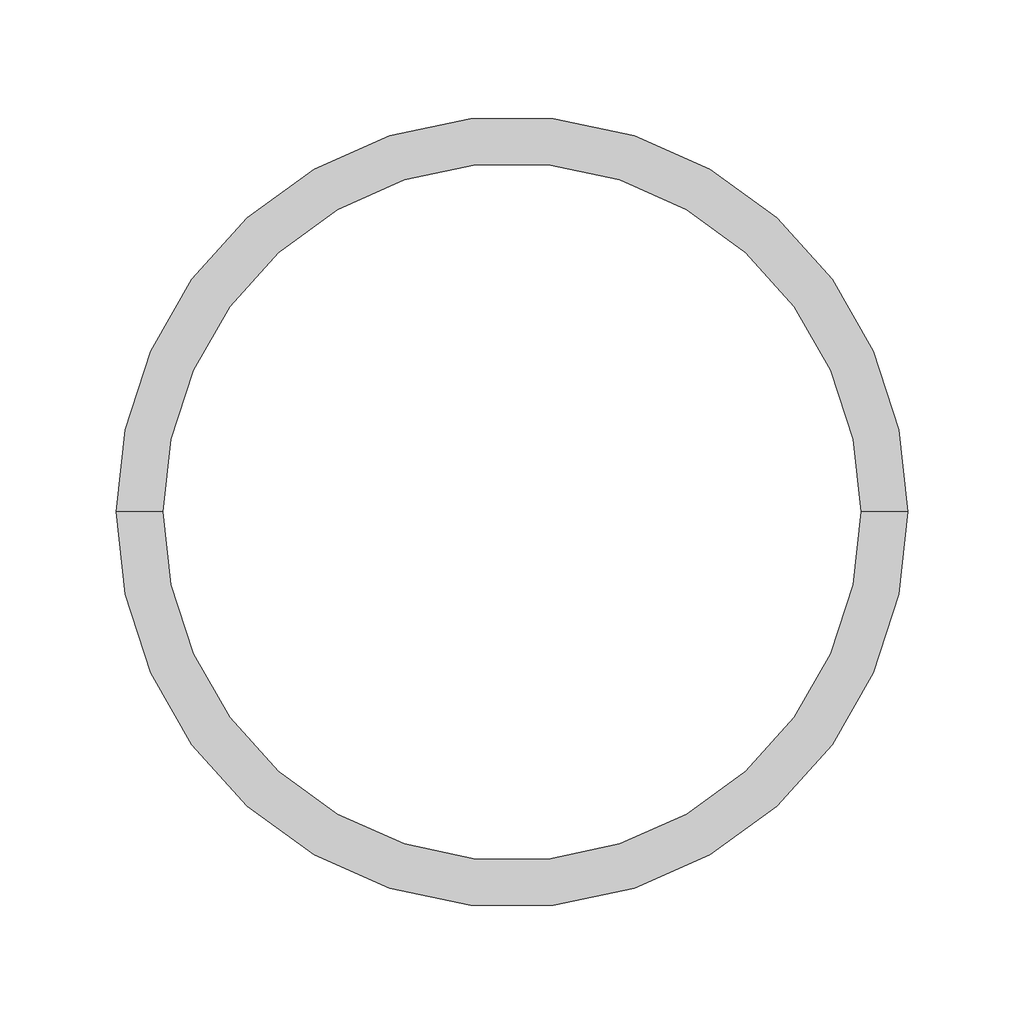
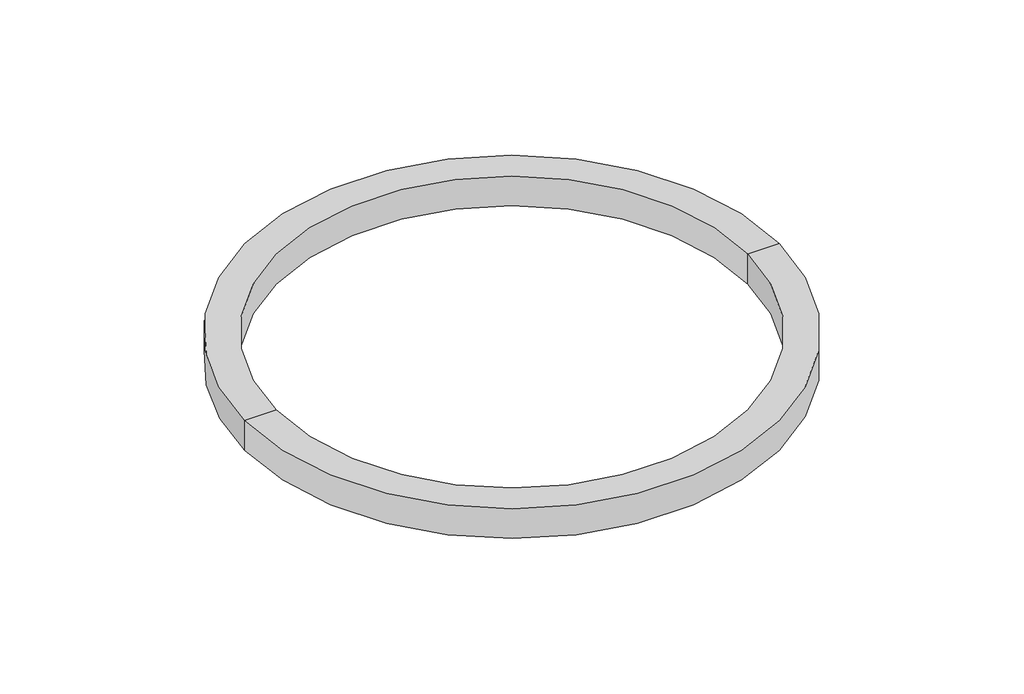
# One storey: 1 proxy.
"""IFC4 building model written with IfcOpenShell, lengths in millimetres."""

import ifcopenshell
import ifcopenshell.guid

model = None  # the IFC model being written
_history = None  # IfcOwnerHistory: only IFC2X3 demands one
_inside = {}  # id of a spatial element -> (the spatial element, [elements in it])
_under = {}  # id of a project, library or spatial element -> (it, [spatial elements below it])
_declared = {}  # id of a project -> (the project, [libraries it declares])
_typed = {}  # id of a type object -> (the type object, [elements of that type])
_made_of = {}  # id of a material, layer set ... -> (it, [elements and type objects made of it])


def new_model(schema):
    """Start an empty IFC model of exactly this schema.

    Asked for "IFC4X3", IfcOpenShell would pick the latest addendum, in which some entities
    have other attributes; the version numbers below select the first issue.
    IFC2X3 requires an IfcOwnerHistory on every rooted entity: one is made here for all.
    """
    global model, _history
    if schema == "IFC4X3":
        model = ifcopenshell.file(schema_version=(4, 3, 0, 0))
    else:
        model = ifcopenshell.file(schema=schema)
    _inside.clear()
    _under.clear()
    _declared.clear()
    _typed.clear()
    _made_of.clear()
    _history = None
    if model.schema == "IFC2X3":
        org = make("IfcOrganization", Name="unknown")
        user = make(
            "IfcPersonAndOrganization",
            ThePerson=make("IfcPerson", FamilyName="unknown"),
            TheOrganization=org,
        )
        app = make(
            "IfcApplication",
            ApplicationDeveloper=org,
            Version="unknown",
            ApplicationFullName="unknown",
            ApplicationIdentifier="unknown",
        )
        _history = make(
            "IfcOwnerHistory",
            OwningUser=user,
            OwningApplication=app,
            ChangeAction="ADDED",
            CreationDate=0,
        )
    return model


def make(cls, **values):
    """One entity of the class cls with the attributes given. An attribute that is None is left unset."""
    return model.create_entity(
        cls, **{name: value for name, value in values.items() if value is not None}
    )


def rooted(cls, **values):
    """An entity with a GlobalId (a new one), such as an element, a storey or a relation."""
    return make(cls, GlobalId=ifcopenshell.guid.new(), OwnerHistory=_history, **values)


def si_unit(unit_type, name, prefix=None):
    """IfcSIUnit, for example si_unit("LENGTHUNIT", "METRE", prefix="MILLI")."""
    return make("IfcSIUnit", UnitType=unit_type, Prefix=prefix, Name=name)


def assignment(units):
    """IfcUnitAssignment: the units of a project."""
    return None if units is None else make("IfcUnitAssignment", Units=units)


def point(xyz):
    """IfcCartesianPoint."""
    return None if xyz is None else make("IfcCartesianPoint", Coordinates=xyz)


def direction(xyz):
    """IfcDirection."""
    return None if xyz is None else make("IfcDirection", DirectionRatios=xyz)


def frame(location, z_axis=None, x_axis=None):
    """IfcAxis2Placement3D, a coordinate frame: its origin and axes. An axis left out is left unset."""
    return make(
        "IfcAxis2Placement3D",
        Location=point(location),
        Axis=direction(z_axis),
        RefDirection=direction(x_axis),
    )


def origin():
    """The frame at (0, 0, 0) with its axes left unset."""
    return frame((0.0, 0.0, 0.0))


def place(relative_to, where):
    """IfcLocalPlacement: puts the frame where relative to a parent placement (None: the world)."""
    return make(
        "IfcLocalPlacement", PlacementRelTo=relative_to, RelativePlacement=where
    )


def context(
    kind, dimensions, precision=None, world=None, true_north=None, identifier=None
):
    """IfcGeometricRepresentationContext, for example the 3D "Model" context."""
    return make(
        "IfcGeometricRepresentationContext",
        ContextIdentifier=identifier,
        ContextType=kind,
        CoordinateSpaceDimension=dimensions,
        Precision=precision,
        WorldCoordinateSystem=world,
        TrueNorth=true_north,
    )


def project(units=None, contexts=None):
    """IfcProject with its units and contexts."""
    return rooted(
        "IfcProject",
        Name="project",
        RepresentationContexts=contexts,
        UnitsInContext=assignment(units),
    )


def spatial(cls, under=None, at=None, **own):
    """A site, building, storey or space (cls), placed at a placement, below another one or the project."""
    s = rooted(cls, ObjectPlacement=at, **own)
    if under is not None:
        _under.setdefault(under.id(), (under, []))[1].append(s)
    return s


def polyline(points):
    """IfcPolyline through the points."""
    return make("IfcPolyline", Points=[point(p) for p in points])


def circle_curve(where, radius):
    """IfcCircle in the frame where."""
    return make("IfcCircle", Position=where, Radius=radius)


def shape(context_of_items, identifier, shape_type, items):
    """IfcShapeRepresentation: the items that make up one representation, for example the "Body"."""
    return make(
        "IfcShapeRepresentation",
        ContextOfItems=context_of_items,
        RepresentationIdentifier=identifier,
        RepresentationType=shape_type,
        Items=items,
    )


def made_of(thing, what):
    """Note that an element or type object is made of a material, layer set ...; save() writes the relation."""
    if what is not None:
        _made_of.setdefault(what.id(), (what, []))[1].append(thing)
    return thing


def element(
    cls,
    number,
    at=None,
    inside=None,
    cuts=None,
    type_object=None,
    material=None,
    context=None,
    identifier="Body",
    shape_type=None,
    held_by="IfcProductDefinitionShape",
    body=None,
    shapes=None,
    **own,
):
    """One element of the class cls, such as IfcWall. Its Tag is "e" and its number.

    at: its placement. inside: the storey or other place that contains it. cuts: it is an
    opening in that element (IfcRelVoidsElement). A single representation is given by context,
    identifier, shape_type and body (its items); several are given by shapes. held_by: the class
    of the entity that holds the representations. save() writes the other relations.
    """
    e = rooted(cls, Tag="e%d" % number, ObjectPlacement=at, **own)
    if body is not None:
        shapes = [shape(context, identifier, shape_type, body)]
    if shapes is not None:
        e.Representation = make(held_by, Representations=shapes)
    if inside is not None:
        _inside.setdefault(inside.id(), (inside, []))[1].append(e)
    if cuts is not None:
        rooted(
            "IfcRelVoidsElement", RelatingBuildingElement=cuts, RelatedOpeningElement=e
        )
    if type_object is not None:
        _typed.setdefault(type_object.id(), (type_object, []))[1].append(e)
    return made_of(e, material)


def aggregate(whole, parts):
    """IfcRelAggregates: a whole, such as a stair, and the parts it consists of."""
    return rooted("IfcRelAggregates", RelatingObject=whole, RelatedObjects=parts)


def save(model, path):
    """Write the relations noted so far, then the file.

    IfcRelAggregates (storeys below a building ...), IfcRelContainedInSpatialStructure (elements
    in a storey), IfcRelDefinesByType, IfcRelAssociatesMaterial and IfcRelDeclares: one each for
    every whole, place, type object, material and project.
    """
    for whole, parts in _under.values():
        aggregate(whole, parts)
    for where, things in _inside.values():
        rooted(
            "IfcRelContainedInSpatialStructure",
            RelatedElements=things,
            RelatingStructure=where,
        )
    for kind, things in _typed.values():
        rooted("IfcRelDefinesByType", RelatedObjects=things, RelatingType=kind)
    for what, things in _made_of.values():
        rooted("IfcRelAssociatesMaterial", RelatedObjects=things, RelatingMaterial=what)
    for by, libraries in _declared.values():
        rooted("IfcRelDeclares", RelatingContext=by, RelatedDefinitions=libraries)
    model.write(path)


def plane_surface(at):
    """IfcPlane: the flat surface through the origin of the frame at, square to its z axis."""
    return make("IfcPlane", Position=at)


def cylinder_surface(at, radius):
    """IfcCylindricalSurface: all points at the distance radius from the z axis of the frame at."""
    return make("IfcCylindricalSurface", Position=at, Radius=radius)


def revolved_surface(curve, axis_point, axis_direction):
    """IfcSurfaceOfRevolution: the curve turned about the line through axis_point along axis_direction."""
    return make(
        "IfcSurfaceOfRevolution",
        SweptCurve=make("IfcArbitraryOpenProfileDef", ProfileType="CURVE", Curve=curve),
        AxisPosition=make("IfcAxis1Placement", Location=point(axis_point), Axis=direction(axis_direction)),
    )


def advanced_brep(points, edges, surfaces, faces):
    """IfcAdvancedBrep: a solid bounded by faces that lie on surfaces and meet in shared edges.

    An edge is (start, end): straight between two places in points (the first is 0);
    or (start, end, curve); or (start, end, curve, False) where it runs against its curve.
    A face is (place in surfaces, loops), or (place, loops, False) where it looks against
    its surface's normal. A loop lists edges by number (the first is 1), with a minus sign
    where the edge is run from its end to its start. The first loop is the outer one.
    """
    corners = [point(p) for p in points]
    vertices = [make("IfcVertexPoint", VertexGeometry=c) for c in corners]
    made = []
    for start, end, *more in edges:
        made.append(
            make(
                "IfcEdgeCurve",
                EdgeStart=vertices[start],
                EdgeEnd=vertices[end],
                EdgeGeometry=more[0] if more else make("IfcPolyline", Points=[corners[start], corners[end]]),
                SameSense=more[1] if len(more) > 1 else True,
            )
        )
    hull = []
    for where, loops, *sense in faces:
        bounds = []
        for j, loop in enumerate(loops):
            ring = [make("IfcOrientedEdge", EdgeElement=made[abs(k) - 1], Orientation=k > 0) for k in loop]
            bounds.append(
                make(
                    "IfcFaceOuterBound" if j == 0 else "IfcFaceBound",
                    Bound=make("IfcEdgeLoop", EdgeList=ring),
                    Orientation=True,
                )
            )
        hull.append(make("IfcAdvancedFace", Bounds=bounds, FaceSurface=surfaces[where], SameSense=sense[0] if sense else True))
    return make("IfcAdvancedBrep", Outer=make("IfcClosedShell", CfsFaces=hull))


model = new_model("IFC4")

# Units and contexts
model_context = context("Model", 3, world=origin())
ifc_project = project(units=[si_unit("LENGTHUNIT", "METRE", prefix="MILLI")], contexts=[model_context])

# Site, building, storey
site = spatial("IfcSite", under=ifc_project)
building = spatial("IfcBuilding", under=site)
storey = spatial("IfcBuildingStorey", under=building, Name="- 1.2 Sopra AKTI-VO", Elevation=-2990.0)

# Proxy
placement = place(None, origin())
element("IfcBuildingElementProxy", 1, Name="WT 102 VOLTECO", ObjectType="WT 102 VOLTECO", at=placement, inside=storey, context=model_context, shape_type="AdvancedBrep", body=[
    advanced_brep(
    [(597.6847794, -14630.9443695, -2970.0), (897.6847794, -14630.9443695, -2970.0), (897.6847794, -14630.9443695, -2990.0), (597.6847794, -14630.9443695, -2990.0), (577.6847794, -14630.9443695, -2970.0), (917.6847794, -14630.9443695, -2970.0), (577.6847794, -14630.9443695, -2990.0), (917.6847794, -14630.9443695, -2990.0)],
    [
        (0, 1, circle_curve(frame((747.6847794, -14630.9443695, -2970.0), z_axis=(0.0, 0.0, 1.0), x_axis=(1.0, 0.0, 0.0)), 150.0)),
        (1, 2),
        (2, 3, circle_curve(frame((747.6847794, -14630.9443695, -2990.0), z_axis=(0.0, 0.0, -1.0), x_axis=(1.0, 0.0, 0.0)), 150.0)),
        (3, 0),
        (4, 5, circle_curve(frame((747.6847794, -14630.9443695, -2970.0), z_axis=(0.0, 0.0, 1.0), x_axis=(1.0, 0.0, 0.0)), 170.0)),
        (5, 1),
        (0, 4),
        (6, 7, circle_curve(frame((747.6847794, -14630.9443695, -2990.0), z_axis=(0.0, 0.0, 1.0), x_axis=(1.0, 0.0, 0.0)), 170.0)),
        (7, 5),
        (4, 6),
        (2, 7),
        (6, 3),
        (1, 0, circle_curve(frame((747.6847794, -14630.9443695, -2970.0), z_axis=(0.0, 0.0, 1.0), x_axis=(-1.0, 0.0, 0.0)), 150.0)),
        (3, 2, circle_curve(frame((747.6847794, -14630.9443695, -2990.0), z_axis=(0.0, 0.0, -1.0), x_axis=(-1.0, 0.0, 0.0)), 150.0)),
        (5, 4, circle_curve(frame((747.6847794, -14630.9443695, -2970.0), z_axis=(0.0, 0.0, 1.0), x_axis=(-1.0, 0.0, 0.0)), 170.0)),
        (7, 6, circle_curve(frame((747.6847794, -14630.9443695, -2990.0), z_axis=(0.0, 0.0, 1.0), x_axis=(-1.0, 0.0, 0.0)), 170.0)),
    ],
    [
        revolved_surface(polyline([(897.6847794, -14630.9443695, -2990.0), (897.6847794, -14630.9443695, -2970.0)]), (747.6847794, -14630.9443695, -2990.0), (0.0, 0.0, -1.0)),
        plane_surface(frame((747.6847794, -14630.9443695, -2970.0), z_axis=(0.0, 0.0, 1.0), x_axis=(1.0, 0.0, 0.0))),
        cylinder_surface(frame((747.6847794, -14630.9443695, -2990.0), z_axis=(0.0, 0.0, -1.0), x_axis=(1.0, 0.0, 0.0)), 170.0),
        plane_surface(frame((747.6847794, -14630.9443695, -2990.0), z_axis=(0.0, 0.0, -1.0), x_axis=(1.0, 0.0, 0.0))),
        revolved_surface(polyline([(597.6847794, -14630.9443695, -2990.0), (597.6847794, -14630.9443695, -2970.0)]), (747.6847794, -14630.9443695, -2990.0), (0.0, 0.0, -1.0)),
        plane_surface(frame((747.6847794, -14630.9443695, -2970.0), z_axis=(0.0, 0.0, 1.0), x_axis=(-1.0, 0.0, 0.0))),
        cylinder_surface(frame((747.6847794, -14630.9443695, -2990.0), z_axis=(0.0, 0.0, -1.0), x_axis=(-1.0, 0.0, 0.0)), 170.0),
        plane_surface(frame((747.6847794, -14630.9443695, -2990.0), z_axis=(0.0, 0.0, -1.0), x_axis=(-1.0, 0.0, 0.0))),
    ],
    [
        (0, [[1, 2, 3, 4]]),
        (1, [[5, 6, -1, 7]]),
        (2, [[8, 9, -5, 10]]),
        (3, [[-3, 11, -8, 12]]),
        (4, [[13, -4, 14, -2]]),
        (5, [[15, -7, -13, -6]]),
        (6, [[16, -10, -15, -9]]),
        (7, [[-14, -12, -16, -11]]),
    ],
),
])

save(model, "model.ifc")
